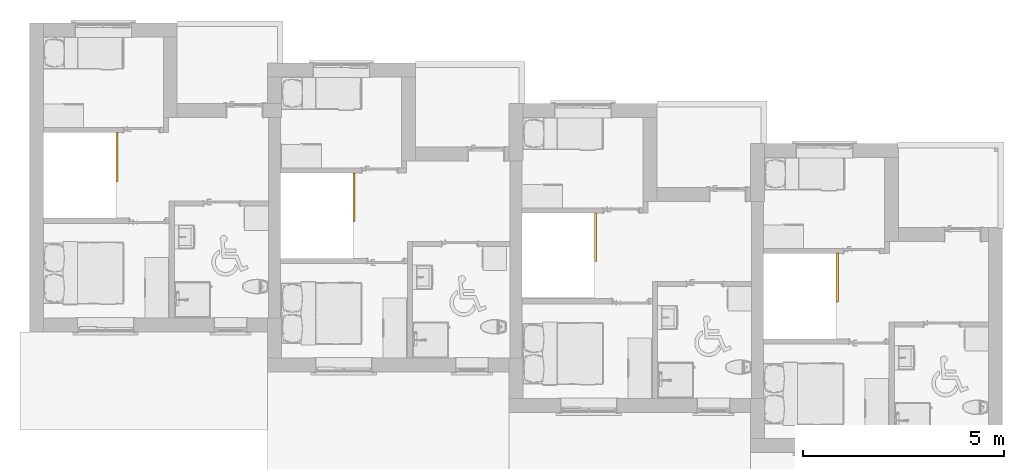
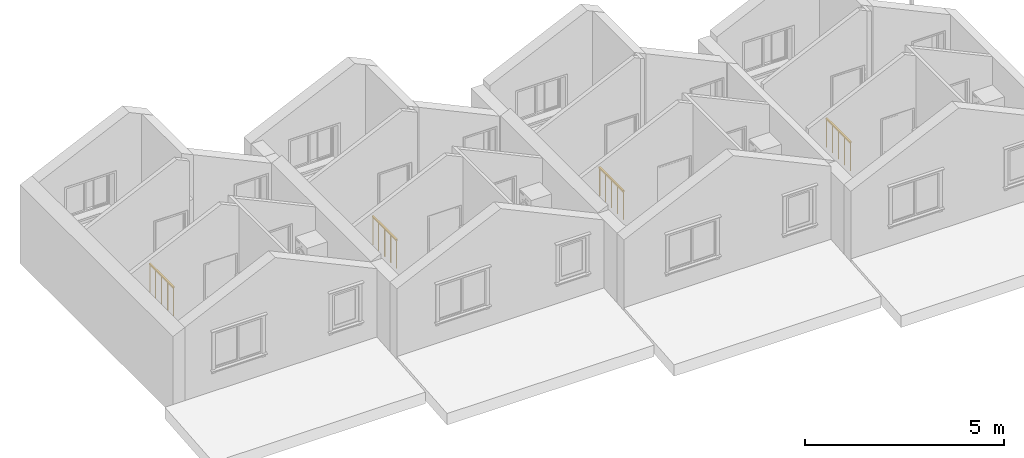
# One storey, part 31 of 44: 4 railings.
"""IFC2X3 building model written with IfcOpenShell, lengths in millimetres."""

from ifc_helpers import new_model, entity, si_unit, converted_unit, direction, frame, frame_2d, origin, origin_2d_with_axis, place, context, subcontext, project, spatial, rectangle, extrude, material, type_object, element, save


model = new_model("IFC2X3")

# Units and contexts
model_context = context("Model", 3, precision=0.01, world=origin(), true_north=direction((0.0, 1.0)))
body_context = subcontext(model_context, "Body", "Model", "MODEL_VIEW")
ifc_project = project(units=[si_unit("LENGTHUNIT", "METRE", prefix="MILLI"), si_unit("AREAUNIT", "SQUARE_METRE"), si_unit("VOLUMEUNIT", "CUBIC_METRE"), converted_unit("PLANEANGLEUNIT", "DEGREE", entity("IfcPlaneAngleMeasure", 0.017453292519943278), si_unit("PLANEANGLEUNIT", "RADIAN"), dimensions=[0, 0, 0, 0, 0, 0, 0])], contexts=[model_context])

# Site, building, storey
site_placement = place(None, origin())
site = spatial("IfcSite", under=ifc_project, at=site_placement, Name="Default", CompositionType="ELEMENT")
building_placement = place(site_placement, origin())
building = spatial("IfcBuilding", under=site, at=building_placement, CompositionType="ELEMENT")
storey_placement = place(building_placement, frame((0.0, 0.0, 2681.0)))
storey = spatial("IfcBuildingStorey", under=building, at=storey_placement, Name="Et. 2", CompositionType="ELEMENT", Elevation=2681.0)

# Railings
ifc_material = material(Name="Metall - Malt - MØRK GRÅ MATT")
railing_type = type_object("IfcRailingType", Name="Railing:900mm", PredefinedType="NOTDEFINED")
railing_1_placement = place(storey_placement, origin())
element("IfcRailing", 1, at=railing_1_placement, inside=storey, type_object=railing_type, material=ifc_material, Name="Railing:900mm", PredefinedType="NOTDEFINED", context=body_context, shape_type="SweptSolid", body=[
    extrude(rectangle(XDim=19.999999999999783, YDim=19.999999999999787, at=frame_2d((0.0, 4.331646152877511e-12), x_axis=(1.0, 0.0))), frame((30160.569130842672, 13059.807660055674, 0.0), z_axis=(0.0, 0.0, 1.0), x_axis=(0.0, 1.0, 0.0)), (0.0, 0.0, 1.0), 849.9999999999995),
    extrude(rectangle(XDim=19.999999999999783, YDim=19.999999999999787, at=frame_2d((0.0, 4.331646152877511e-12), x_axis=(1.0, 0.0))), frame((30160.569130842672, 12754.807660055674, 0.0), z_axis=(0.0, 0.0, 1.0), x_axis=(0.0, 1.0, 0.0)), (0.0, 0.0, 1.0), 849.9999999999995),
    extrude(rectangle(XDim=19.999999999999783, YDim=19.999999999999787, at=frame_2d((0.0, 4.331646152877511e-12), x_axis=(1.0, 0.0))), frame((30160.569130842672, 12449.807660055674, 0.0), z_axis=(0.0, 0.0, 1.0), x_axis=(0.0, 1.0, 0.0)), (0.0, 0.0, 1.0), 849.9999999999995),
    extrude(rectangle(XDim=19.999999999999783, YDim=19.999999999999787, at=frame_2d((0.0, 4.331646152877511e-12), x_axis=(1.0, 0.0))), frame((30160.569130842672, 13354.807660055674, 0.0), z_axis=(0.0, 0.0, 1.0), x_axis=(0.0, 1.0, 0.0)), (0.0, 0.0, 1.0), 849.9999999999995),
    extrude(rectangle(XDim=19.999999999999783, YDim=19.999999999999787, at=frame_2d((0.0, 4.331646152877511e-12), x_axis=(1.0, 0.0))), frame((30160.569130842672, 12154.807660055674, 0.0), z_axis=(0.0, 0.0, 1.0), x_axis=(0.0, 1.0, 0.0)), (0.0, 0.0, 1.0), 849.9999999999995),
    extrude(rectangle(XDim=1219.9999999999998, YDim=50.00000000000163, at=frame_2d((0.0, -2.1671553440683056e-12), x_axis=(1.0, 0.0))), frame((30160.56913084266, 12754.807660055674, 850.0), z_axis=(0.0, 0.0, 1.0), x_axis=(0.0, 1.0, 0.0)), (0.0, 0.0, 1.0), 50.0),
])
railing_2_placement = place(storey_placement, origin())
element("IfcRailing", 2, at=railing_2_placement, inside=storey, type_object=railing_type, material=ifc_material, Name="Railing:900mm", PredefinedType="NOTDEFINED", context=body_context, shape_type="SweptSolid", body=[
    extrude(rectangle(XDim=19.999999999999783, YDim=19.999999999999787, at=origin_2d_with_axis()), frame((24160.598304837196, 14058.134466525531, 0.0), z_axis=(0.0, 0.0, 1.0), x_axis=(0.0, 1.0, 0.0)), (0.0, 0.0, 1.0), 849.9999999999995),
    extrude(rectangle(XDim=19.999999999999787, YDim=19.999999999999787, at=frame_2d((-2.1662671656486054e-12, 0.0), x_axis=(1.0, 0.0))), frame((24160.598304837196, 13756.205165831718, 0.0), z_axis=(0.0, 0.0, 1.0), x_axis=(0.0, 1.0, 0.0)), (0.0, 0.0, 1.0), 849.9999999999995),
    extrude(rectangle(XDim=19.999999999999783, YDim=19.999999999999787, at=origin_2d_with_axis()), frame((24160.598304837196, 13454.2758651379, 0.0), z_axis=(0.0, 0.0, 1.0), x_axis=(0.0, 1.0, 0.0)), (0.0, 0.0, 1.0), 849.9999999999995),
    extrude(rectangle(XDim=19.999999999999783, YDim=19.999999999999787, at=origin_2d_with_axis()), frame((24160.598304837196, 14350.063767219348, 0.0), z_axis=(0.0, 0.0, 1.0), x_axis=(0.0, 1.0, 0.0)), (0.0, 0.0, 1.0), 849.9999999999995),
    extrude(rectangle(XDim=19.999999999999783, YDim=19.999999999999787, at=origin_2d_with_axis()), frame((24160.598304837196, 13162.346564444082, 0.0), z_axis=(0.0, 0.0, 1.0), x_axis=(0.0, 1.0, 0.0)), (0.0, 0.0, 1.0), 849.9999999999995),
    extrude(rectangle(XDim=1207.7172027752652, YDim=50.00000000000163, at=frame_2d((0.0, 2.1671553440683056e-12), x_axis=(1.0, 0.0))), frame((24160.598304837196, 13756.205165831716, 850.0), z_axis=(0.0, 0.0, 1.0), x_axis=(0.0, 1.0, 0.0)), (0.0, 0.0, 1.0), 50.0),
])
railing_3_placement = place(storey_placement, origin())
element("IfcRailing", 3, at=railing_3_placement, inside=storey, type_object=railing_type, material=ifc_material, Name="Railing:900mm", PredefinedType="NOTDEFINED", context=body_context, shape_type="SweptSolid", body=[
    extrude(rectangle(XDim=19.999999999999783, YDim=19.999999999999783, at=origin_2d_with_axis()), frame((12273.361760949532, 15447.609080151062, 0.0), z_axis=(0.0, 0.0, 1.0), x_axis=(-1.0, 0.0, 0.0)), (0.0, 0.0, 1.0), 849.9999999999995),
    extrude(rectangle(XDim=19.999999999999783, YDim=19.999999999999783, at=origin_2d_with_axis()), frame((12273.361760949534, 15750.466372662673, 0.0), z_axis=(0.0, 0.0, 1.0), x_axis=(-1.0, 0.0, 0.0)), (0.0, 0.0, 1.0), 849.9999999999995),
    extrude(rectangle(XDim=19.999999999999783, YDim=19.999999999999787, at=frame_2d((0.0, 2.1662671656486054e-12), x_axis=(1.0, 0.0))), frame((12273.361760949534, 16053.323665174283, 0.0), z_axis=(0.0, 0.0, 1.0), x_axis=(-1.0, 0.0, 0.0)), (0.0, 0.0, 1.0), 849.9999999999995),
    extrude(rectangle(XDim=19.999999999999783, YDim=19.999999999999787, at=frame_2d((0.0, 2.1662671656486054e-12), x_axis=(1.0, 0.0))), frame((12273.361760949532, 15154.751787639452, 0.0), z_axis=(0.0, 0.0, 1.0), x_axis=(-1.0, 0.0, 0.0)), (0.0, 0.0, 1.0), 849.9999999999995),
    extrude(rectangle(XDim=19.999999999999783, YDim=19.999999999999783, at=origin_2d_with_axis()), frame((12273.361760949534, 16346.180957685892, 0.0), z_axis=(0.0, 0.0, 1.0), x_axis=(-1.0, 0.0, 0.0)), (0.0, 0.0, 1.0), 849.9999999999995),
    extrude(rectangle(XDim=1211.429170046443, YDim=49.99999999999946, at=frame_2d((-1.0800249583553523e-12, 0.0), x_axis=(1.0, 0.0))), frame((12273.361760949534, 15750.46637266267, 850.0), z_axis=(0.0, 0.0, 1.0), x_axis=(0.0, -1.0, 0.0)), (0.0, 0.0, 1.0), 50.0),
])
railing_4_placement = place(storey_placement, origin())
element("IfcRailing", 4, at=railing_4_placement, inside=storey, type_object=railing_type, material=ifc_material, Name="Railing:900mm", PredefinedType="NOTDEFINED", context=body_context, shape_type="SweptSolid", body=[
    extrude(rectangle(XDim=19.999999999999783, YDim=19.999999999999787, at=frame_2d((0.0, -2.1662671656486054e-12), x_axis=(1.0, 0.0))), frame((18159.550712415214, 15053.323665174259, 0.0), z_axis=(0.0, 0.0, 1.0), x_axis=(0.0, 1.0, 0.0)), (0.0, 0.0, 1.0), 849.9999999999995),
    extrude(rectangle(XDim=19.999999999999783, YDim=19.999999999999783, at=origin_2d_with_axis()), frame((18159.550712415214, 14750.466372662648, 0.0), z_axis=(0.0, 0.0, 1.0), x_axis=(0.0, 1.0, 0.0)), (0.0, 0.0, 1.0), 849.9999999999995),
    extrude(rectangle(XDim=19.999999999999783, YDim=19.999999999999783, at=origin_2d_with_axis()), frame((18159.550712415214, 14447.60908015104, 0.0), z_axis=(0.0, 0.0, 1.0), x_axis=(0.0, 1.0, 0.0)), (0.0, 0.0, 1.0), 849.9999999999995),
    extrude(rectangle(XDim=19.999999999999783, YDim=19.999999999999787, at=frame_2d((0.0, -2.1662671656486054e-12), x_axis=(1.0, 0.0))), frame((18159.550712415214, 15346.18095768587, 0.0), z_axis=(0.0, 0.0, 1.0), x_axis=(0.0, 1.0, 0.0)), (0.0, 0.0, 1.0), 849.9999999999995),
    extrude(rectangle(XDim=19.999999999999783, YDim=19.999999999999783, at=origin_2d_with_axis()), frame((18159.550712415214, 14154.751787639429, 0.0), z_axis=(0.0, 0.0, 1.0), x_axis=(0.0, 1.0, 0.0)), (0.0, 0.0, 1.0), 849.9999999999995),
    extrude(rectangle(XDim=1211.429170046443, YDim=49.99999999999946, at=frame_2d((-1.0800249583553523e-12, 0.0), x_axis=(1.0, 0.0))), frame((18159.550712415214, 14750.466372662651, 850.0), z_axis=(0.0, 0.0, 1.0), x_axis=(0.0, 1.0, 0.0)), (0.0, 0.0, 1.0), 50.0),
])

save(model, "model.ifc")
